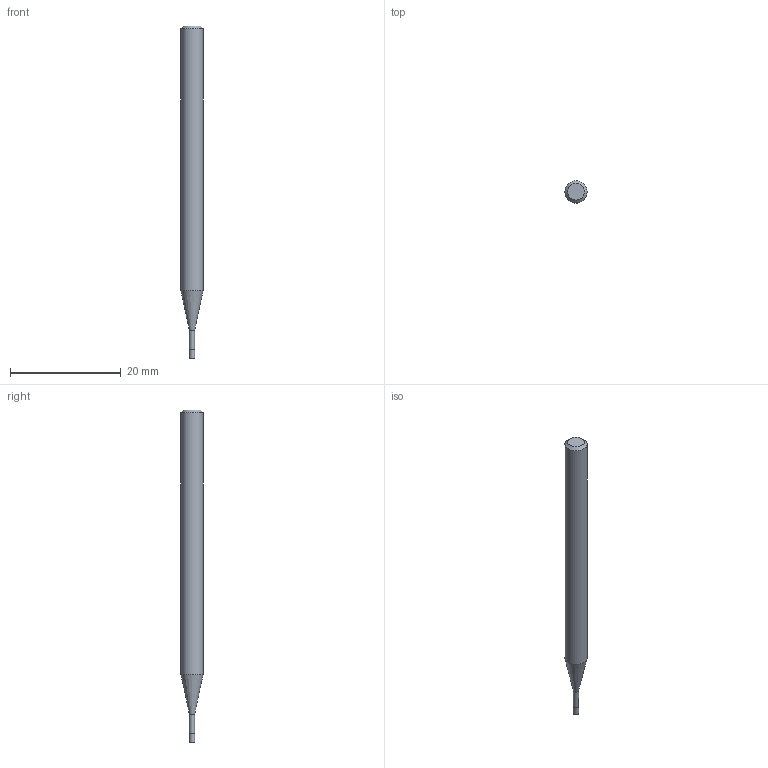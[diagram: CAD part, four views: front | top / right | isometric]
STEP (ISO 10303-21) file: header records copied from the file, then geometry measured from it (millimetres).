
FILE_DESCRIPTION((''),'2;1');
FILE_NAME('C:\Users\nsx150\AppData\Local\Temp\Mastercam 2021\EUJSUNXURU\TEMP.step','2021-04-22T10:27:28',(''),(''),'STEP Write','Mastercam 2021 ... CNC Software, Inc.','');
FILE_SCHEMA(('AUTOMOTIVE_DESIGN'));
Length unit declared in the file: millimetre
Products named in the file (1): None
Bounding box: 4 x 4 x 60 mm (x, y, z)
Volume: 642.1 mm3; surface area: 684 mm2
Topology: 2 solids, 2 shells, 9 faces, 12 edges, 7 vertices
Faces by surface type: plane 4, cylinder 3, cone 2
Full cylindrical faces by diameter (mm): 0.95 x1, 1 x1, 4 x1
Entity records: 211 total; most frequent: DIRECTION 36, CARTESIAN_POINT 25, AXIS2_PLACEMENT_3D 18, ORIENTED_EDGE 14, EDGE_LOOP 14, STYLED_ITEM 12, ADVANCED_FACE 9, FACE_BOUND 8
